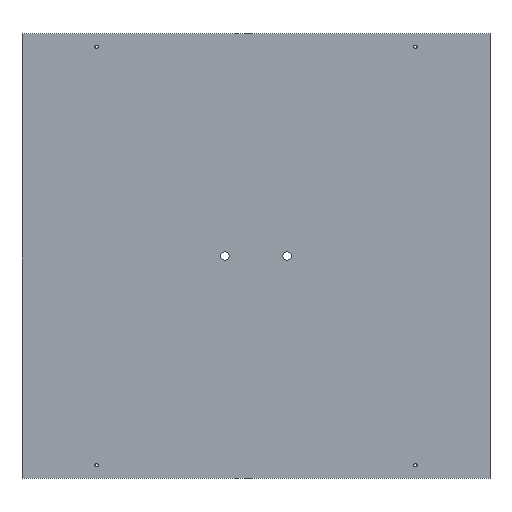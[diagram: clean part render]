
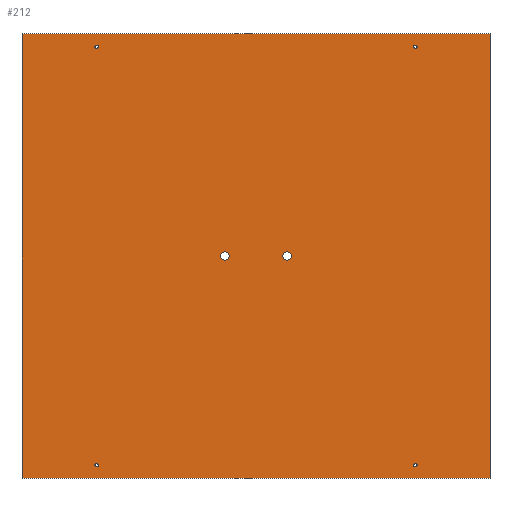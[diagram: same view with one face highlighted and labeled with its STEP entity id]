
A CAD part, top view. The second image highlights one B-rep face of the part: STEP entity #212.
In plain terms, the highlighted planar face has unit normal (0, 0, 1).
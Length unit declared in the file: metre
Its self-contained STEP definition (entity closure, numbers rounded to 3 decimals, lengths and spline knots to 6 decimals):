
#18=LINE('',#335,#30);
#19=LINE('',#338,#31);
#20=LINE('',#340,#32);
#21=LINE('',#342,#33);
#30=VECTOR('',#275,1.);
#31=VECTOR('',#276,1.);
#32=VECTOR('',#277,1.);
#33=VECTOR('',#278,1.);
#42=ORIENTED_EDGE('',*,*,#90,.F.);
#43=ORIENTED_EDGE('',*,*,#91,.F.);
#44=ORIENTED_EDGE('',*,*,#92,.F.);
#45=ORIENTED_EDGE('',*,*,#93,.T.);
#46=ORIENTED_EDGE('',*,*,#94,.F.);
#47=ORIENTED_EDGE('',*,*,#95,.F.);
#48=ORIENTED_EDGE('',*,*,#96,.T.);
#49=ORIENTED_EDGE('',*,*,#97,.T.);
#50=ORIENTED_EDGE('',*,*,#98,.F.);
#51=ORIENTED_EDGE('',*,*,#99,.T.);
#90=EDGE_CURVE('',#114,#114,#134,.T.);
#91=EDGE_CURVE('',#115,#115,#135,.T.);
#92=EDGE_CURVE('',#116,#116,#136,.T.);
#93=EDGE_CURVE('',#117,#117,#137,.T.);
#94=EDGE_CURVE('',#118,#118,#138,.T.);
#95=EDGE_CURVE('',#119,#120,#18,.T.);
#96=EDGE_CURVE('',#119,#121,#19,.T.);
#97=EDGE_CURVE('',#121,#122,#20,.T.);
#98=EDGE_CURVE('',#120,#122,#21,.T.);
#99=EDGE_CURVE('',#123,#123,#139,.T.);
#114=VERTEX_POINT('',#326);
#115=VERTEX_POINT('',#328);
#116=VERTEX_POINT('',#330);
#117=VERTEX_POINT('',#332);
#118=VERTEX_POINT('',#334);
#119=VERTEX_POINT('',#336);
#120=VERTEX_POINT('',#337);
#121=VERTEX_POINT('',#339);
#122=VERTEX_POINT('',#341);
#123=VERTEX_POINT('',#344);
#134=CIRCLE('',#238,0.004018);
#135=CIRCLE('',#239,0.004018);
#136=CIRCLE('',#240,0.001613);
#137=CIRCLE('',#241,0.001613);
#138=CIRCLE('',#242,0.001613);
#139=CIRCLE('',#243,0.001613);
#146=EDGE_LOOP('',(#42));
#147=EDGE_LOOP('',(#43));
#148=EDGE_LOOP('',(#44));
#149=EDGE_LOOP('',(#45));
#150=EDGE_LOOP('',(#46));
#151=EDGE_LOOP('',(#47,#48,#49,#50));
#152=EDGE_LOOP('',(#51));
#176=FACE_BOUND('',#146,.T.);
#177=FACE_BOUND('',#147,.T.);
#178=FACE_BOUND('',#148,.T.);
#179=FACE_BOUND('',#149,.T.);
#180=FACE_BOUND('',#150,.T.);
#181=FACE_BOUND('',#151,.T.);
#182=FACE_BOUND('',#152,.T.);
#206=PLANE('',#237);
#212=ADVANCED_FACE('',(#176,#177,#178,#179,#180,#181,#182),#206,.T.);
#237=AXIS2_PLACEMENT_3D('',#324,#263,#264);
#238=AXIS2_PLACEMENT_3D('',#325,#265,#266);
#239=AXIS2_PLACEMENT_3D('',#327,#267,#268);
#240=AXIS2_PLACEMENT_3D('',#329,#269,#270);
#241=AXIS2_PLACEMENT_3D('',#331,#271,#272);
#242=AXIS2_PLACEMENT_3D('',#333,#273,#274);
#243=AXIS2_PLACEMENT_3D('',#343,#279,#280);
#263=DIRECTION('',(0.,0.,1.));
#264=DIRECTION('',(1.,0.,0.));
#265=DIRECTION('',(0.,0.,1.));
#266=DIRECTION('',(1.,0.,0.));
#267=DIRECTION('',(0.,0.,1.));
#268=DIRECTION('',(1.,0.,0.));
#269=DIRECTION('',(0.,0.,1.));
#270=DIRECTION('',(1.,0.,0.));
#271=DIRECTION('',(0.,0.,-1.));
#272=DIRECTION('',(1.,0.,0.));
#273=DIRECTION('',(0.,0.,1.));
#274=DIRECTION('',(1.,0.,0.));
#275=DIRECTION('',(1.,0.,0.));
#276=DIRECTION('',(0.,-1.,0.));
#277=DIRECTION('',(1.,0.,0.));
#278=DIRECTION('',(0.,-1.,0.));
#279=DIRECTION('',(0.,0.,-1.));
#280=DIRECTION('',(1.,0.,0.));
#324=CARTESIAN_POINT('',(0.,0.,0.003175));
#325=CARTESIAN_POINT('',(-0.029766,0.,0.003175));
#326=CARTESIAN_POINT('',(-0.025747,0.,0.003175));
#327=CARTESIAN_POINT('',(0.029766,0.,0.003175));
#328=CARTESIAN_POINT('',(0.033784,0.,0.003175));
#329=CARTESIAN_POINT('',(-0.1524,-0.200012,0.003175));
#330=CARTESIAN_POINT('',(-0.150787,-0.200012,0.003175));
#331=CARTESIAN_POINT('',(0.1524,-0.200012,0.003175));
#332=CARTESIAN_POINT('',(0.154013,-0.200012,0.003175));
#333=CARTESIAN_POINT('',(-0.1524,0.200012,0.003175));
#334=CARTESIAN_POINT('',(-0.150787,0.200012,0.003175));
#335=CARTESIAN_POINT('',(0.,0.212471,0.003175));
#336=CARTESIAN_POINT('',(-0.223711,0.212471,0.003175));
#337=CARTESIAN_POINT('',(0.223711,0.212471,0.003175));
#338=CARTESIAN_POINT('',(-0.223711,0.,0.003175));
#339=CARTESIAN_POINT('',(-0.223711,-0.212471,0.003175));
#340=CARTESIAN_POINT('',(0.,-0.212471,0.003175));
#341=CARTESIAN_POINT('',(0.223711,-0.212471,0.003175));
#342=CARTESIAN_POINT('',(0.223711,0.,0.003175));
#343=CARTESIAN_POINT('',(0.1524,0.200012,0.003175));
#344=CARTESIAN_POINT('',(0.154013,0.200012,0.003175));
